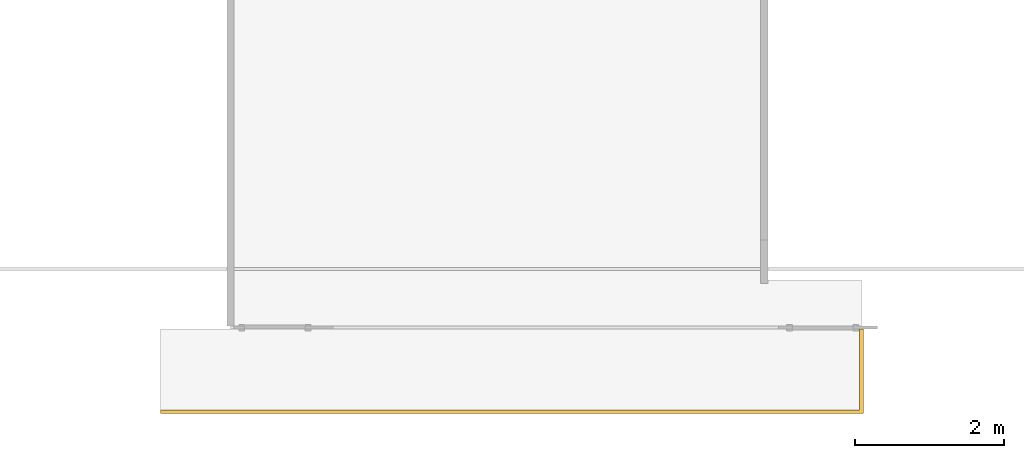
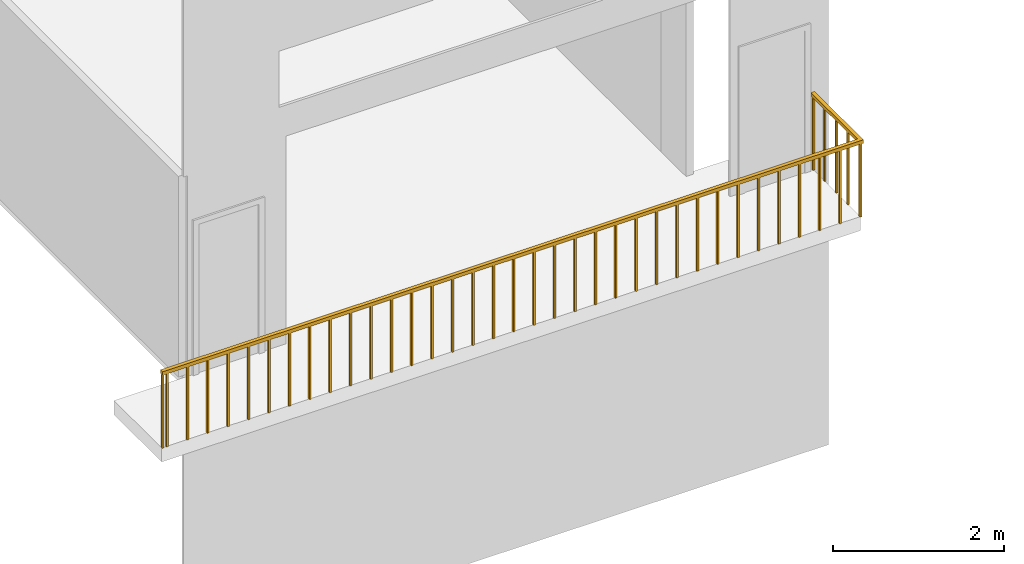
# One storey, part 12 of 14: 1 railing.
"""IFC2X3 building model written with IfcOpenShell, lengths in millimetres."""

from ifc_helpers import new_model, entity, si_unit, converted_unit, derived_unit, direction, frame, origin, place, context, subcontext, project, spatial, faceted_brep, element, save


model = new_model("IFC2X3")

# Units and contexts
model_context = context("Model", 3, precision=0.01, world=origin(), true_north=direction((4.05803320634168e-15, -1.0)))
body_context = subcontext(model_context, "Body", "Model", "MODEL_VIEW")
ifc_project = project(units=[si_unit("LENGTHUNIT", "METRE", prefix="MILLI"), si_unit("AREAUNIT", "SQUARE_METRE"), si_unit("VOLUMEUNIT", "CUBIC_METRE"), converted_unit("PLANEANGLEUNIT", "DEGREE", entity("IfcRatioMeasure", 0.0174532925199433), si_unit("PLANEANGLEUNIT", "RADIAN"), dimensions=[0, 0, 0, 0, 0, 0, 0]), si_unit("MASSUNIT", "GRAM", prefix="KILO"), derived_unit("MASSDENSITYUNIT", [(si_unit("MASSUNIT", "GRAM", prefix="KILO"), 1), (si_unit("LENGTHUNIT", "METRE"), -3)]), si_unit("TIMEUNIT", "SECOND"), si_unit("FREQUENCYUNIT", "HERTZ"), si_unit("THERMODYNAMICTEMPERATUREUNIT", "DEGREE_CELSIUS"), derived_unit("THERMALTRANSMITTANCEUNIT", [(si_unit("MASSUNIT", "GRAM", prefix="KILO"), 1), (si_unit("THERMODYNAMICTEMPERATUREUNIT", "KELVIN"), -1), (si_unit("TIMEUNIT", "SECOND"), -3)]), derived_unit("VOLUMETRICFLOWRATEUNIT", [(si_unit("LENGTHUNIT", "METRE"), 3), (si_unit("TIMEUNIT", "SECOND"), -1)]), si_unit("ELECTRICCURRENTUNIT", "AMPERE"), si_unit("ELECTRICVOLTAGEUNIT", "VOLT"), si_unit("POWERUNIT", "WATT"), si_unit("FORCEUNIT", "NEWTON", prefix="KILO"), si_unit("ILLUMINANCEUNIT", "LUX"), si_unit("LUMINOUSFLUXUNIT", "LUMEN"), si_unit("LUMINOUSINTENSITYUNIT", "CANDELA"), derived_unit("USERDEFINED", [(si_unit("MASSUNIT", "GRAM", prefix="KILO"), -1), (si_unit("LENGTHUNIT", "METRE"), -2), (si_unit("TIMEUNIT", "SECOND"), 3), (si_unit("LUMINOUSFLUXUNIT", "LUMEN"), 1)]), derived_unit("LINEARVELOCITYUNIT", [(si_unit("LENGTHUNIT", "METRE"), 1), (si_unit("TIMEUNIT", "SECOND"), -1)]), si_unit("PRESSUREUNIT", "PASCAL"), derived_unit("USERDEFINED", [(si_unit("LENGTHUNIT", "METRE"), -2), (si_unit("MASSUNIT", "GRAM", prefix="KILO"), 1), (si_unit("TIMEUNIT", "SECOND"), -2)])], contexts=[model_context])

# Site, building, storey
site_placement = place(None, frame((927466.849349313, 583801.882853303, 0.0), z_axis=(0.0, 0.0, 1.0), x_axis=(-1.0, 0.0, 0.0)))
site = spatial("IfcSite", under=ifc_project, at=site_placement, Name="Surface", CompositionType="ELEMENT")
building_placement = place(site_placement, origin())
building = spatial("IfcBuilding", under=site, at=building_placement, CompositionType="ELEMENT")
storey_placement = place(building_placement, frame((0.0, 0.0, 48170.0)))
storey = spatial("IfcBuildingStorey", under=building, at=storey_placement, Name="First floor", CompositionType="ELEMENT", Elevation=48170.0)

# Railing
railing_placement = place(storey_placement, frame((-118423.690247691, 37066.2777512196, 0.0)))
element("IfcRailing", 1, at=railing_placement, inside=storey, Name="Railing:1100mm", ObjectType="Railing:1100mm", PredefinedType="NOTDEFINED", context=body_context, shape_type="Brep", body=[
    faceted_brep([(9362.49999999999, 1124.50000000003, 1050.0), (9362.49999999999, 1124.50000000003, 0.0), (9362.49999999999, 1099.50000000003, 0.0), (9362.49999999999, 1099.50000000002, 1050.0), (9387.49999999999, 1099.50000000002, 0.0), (9387.50000000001, 1099.50000000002, 1050.0), (9387.50000000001, 1124.50000000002, 0.0), (9387.50000000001, 1124.50000000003, 1050.0)], [[[0, 1, 2, 3]], [[3, 2, 4, 5]], [[5, 4, 6, 7]], [[1, 0, 7, 6]], [[0, 3, 5, 7]], [[2, 1, 6, 4]]]),
    faceted_brep([(9087.49999999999, 1124.50000000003, 1050.0), (9087.49999999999, 1124.50000000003, 0.0), (9087.49999999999, 1099.50000000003, 0.0), (9087.49999999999, 1099.50000000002, 1050.0), (9112.49999999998, 1099.50000000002, 0.0), (9112.5, 1099.50000000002, 1050.0), (9112.5, 1124.50000000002, 0.0), (9112.5, 1124.50000000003, 1050.0)], [[[0, 1, 2, 3]], [[3, 2, 4, 5]], [[5, 4, 6, 7]], [[1, 0, 7, 6]], [[0, 3, 5, 7]], [[2, 1, 6, 4]]]),
    faceted_brep([(8812.49999999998, 1124.50000000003, 1050.0), (8812.49999999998, 1124.50000000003, 0.0), (8812.49999999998, 1099.50000000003, 0.0), (8812.49999999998, 1099.50000000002, 1050.0), (8837.49999999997, 1099.50000000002, 0.0), (8837.49999999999, 1099.50000000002, 1050.0), (8837.49999999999, 1124.50000000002, 0.0), (8837.49999999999, 1124.50000000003, 1050.0)], [[[0, 1, 2, 3]], [[3, 2, 4, 5]], [[5, 4, 6, 7]], [[1, 0, 7, 6]], [[0, 3, 5, 7]], [[2, 1, 6, 4]]]),
    faceted_brep([(8537.49999999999, 1124.50000000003, 1050.0), (8537.49999999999, 1124.50000000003, 0.0), (8537.49999999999, 1099.50000000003, 0.0), (8537.49999999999, 1099.50000000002, 1050.0), (8562.49999999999, 1099.50000000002, 0.0), (8562.5, 1099.50000000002, 1050.0), (8562.5, 1124.50000000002, 0.0), (8562.5, 1124.50000000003, 1050.0)], [[[0, 1, 2, 3]], [[3, 2, 4, 5]], [[5, 4, 6, 7]], [[1, 0, 7, 6]], [[0, 3, 5, 7]], [[2, 1, 6, 4]]]),
    faceted_brep([(8262.49999999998, 1124.50000000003, 1050.0), (8262.49999999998, 1124.50000000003, 0.0), (8262.49999999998, 1099.50000000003, 0.0), (8262.49999999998, 1099.50000000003, 1050.0), (8287.49999999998, 1099.50000000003, 0.0), (8287.5, 1099.50000000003, 1050.0), (8287.5, 1124.50000000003, 0.0), (8287.5, 1124.50000000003, 1050.0)], [[[0, 1, 2, 3]], [[3, 2, 4, 5]], [[5, 4, 6, 7]], [[1, 0, 7, 6]], [[0, 3, 5, 7]], [[2, 1, 6, 4]]]),
    faceted_brep([(7987.49999999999, 1124.50000000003, 1050.0), (7987.49999999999, 1124.50000000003, 0.0), (7987.49999999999, 1099.50000000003, 0.0), (7987.49999999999, 1099.50000000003, 1050.0), (8012.49999999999, 1099.50000000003, 0.0), (8012.50000000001, 1099.50000000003, 1050.0), (8012.50000000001, 1124.50000000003, 0.0), (8012.50000000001, 1124.50000000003, 1050.0)], [[[0, 1, 2, 3]], [[3, 2, 4, 5]], [[5, 4, 6, 7]], [[1, 0, 7, 6]], [[0, 3, 5, 7]], [[2, 1, 6, 4]]]),
    faceted_brep([(7712.49999999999, 1124.50000000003, 1050.0), (7712.49999999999, 1124.50000000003, 0.0), (7712.49999999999, 1099.50000000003, 0.0), (7712.49999999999, 1099.50000000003, 1050.0), (7737.49999999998, 1099.50000000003, 0.0), (7737.5, 1099.50000000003, 1050.0), (7737.5, 1124.50000000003, 0.0), (7737.5, 1124.50000000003, 1050.0)], [[[0, 1, 2, 3]], [[3, 2, 4, 5]], [[5, 4, 6, 7]], [[1, 0, 7, 6]], [[0, 3, 5, 7]], [[2, 1, 6, 4]]]),
    faceted_brep([(7437.5, 1124.50000000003, 1050.0), (7437.5, 1124.50000000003, 0.0), (7437.5, 1099.50000000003, 0.0), (7437.5, 1099.50000000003, 1050.0), (7462.49999999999, 1099.50000000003, 0.0), (7462.50000000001, 1099.50000000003, 1050.0), (7462.50000000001, 1124.50000000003, 0.0), (7462.50000000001, 1124.50000000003, 1050.0)], [[[0, 1, 2, 3]], [[3, 2, 4, 5]], [[5, 4, 6, 7]], [[1, 0, 7, 6]], [[0, 3, 5, 7]], [[2, 1, 6, 4]]]),
    faceted_brep([(7162.49999999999, 1124.50000000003, 1050.0), (7162.49999999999, 1124.50000000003, 0.0), (7162.49999999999, 1099.50000000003, 0.0), (7162.49999999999, 1099.50000000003, 1050.0), (7187.49999999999, 1099.50000000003, 0.0), (7187.5, 1099.50000000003, 1050.0), (7187.5, 1124.50000000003, 0.0), (7187.5, 1124.50000000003, 1050.0)], [[[0, 1, 2, 3]], [[3, 2, 4, 5]], [[5, 4, 6, 7]], [[1, 0, 7, 6]], [[0, 3, 5, 7]], [[2, 1, 6, 4]]]),
    faceted_brep([(6887.49999999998, 1124.50000000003, 1050.0), (6887.49999999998, 1124.50000000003, 0.0), (6887.49999999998, 1099.50000000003, 0.0), (6887.49999999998, 1099.50000000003, 1050.0), (6912.49999999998, 1099.50000000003, 0.0), (6912.5, 1099.50000000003, 1050.0), (6912.5, 1124.50000000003, 0.0), (6912.5, 1124.50000000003, 1050.0)], [[[0, 1, 2, 3]], [[3, 2, 4, 5]], [[5, 4, 6, 7]], [[1, 0, 7, 6]], [[0, 3, 5, 7]], [[2, 1, 6, 4]]]),
    faceted_brep([(6612.5, 1124.50000000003, 1050.0), (6612.5, 1124.50000000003, 0.0), (6612.5, 1099.50000000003, 0.0), (6612.5, 1099.50000000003, 1050.0), (6637.49999999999, 1099.50000000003, 0.0), (6637.50000000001, 1099.50000000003, 1050.0), (6637.50000000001, 1124.50000000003, 0.0), (6637.50000000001, 1124.50000000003, 1050.0)], [[[0, 1, 2, 3]], [[3, 2, 4, 5]], [[5, 4, 6, 7]], [[1, 0, 7, 6]], [[0, 3, 5, 7]], [[2, 1, 6, 4]]]),
    faceted_brep([(6337.49999999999, 1124.50000000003, 1050.0), (6337.49999999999, 1124.50000000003, 0.0), (6337.49999999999, 1099.50000000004, 0.0), (6337.49999999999, 1099.50000000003, 1050.0), (6362.49999999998, 1099.50000000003, 0.0), (6362.5, 1099.50000000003, 1050.0), (6362.5, 1124.50000000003, 0.0), (6362.5, 1124.50000000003, 1050.0)], [[[0, 1, 2, 3]], [[3, 2, 4, 5]], [[5, 4, 6, 7]], [[1, 0, 7, 6]], [[0, 3, 5, 7]], [[2, 1, 6, 4]]]),
    faceted_brep([(6062.49999999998, 1124.50000000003, 1050.0), (6062.49999999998, 1124.50000000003, 0.0), (6062.49999999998, 1099.50000000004, 0.0), (6062.49999999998, 1099.50000000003, 1050.0), (6087.49999999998, 1099.50000000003, 0.0), (6087.49999999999, 1099.50000000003, 1050.0), (6087.49999999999, 1124.50000000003, 0.0), (6087.49999999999, 1124.50000000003, 1050.0)], [[[0, 1, 2, 3]], [[3, 2, 4, 5]], [[5, 4, 6, 7]], [[1, 0, 7, 6]], [[0, 3, 5, 7]], [[2, 1, 6, 4]]]),
    faceted_brep([(5787.49999999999, 1124.50000000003, 1050.0), (5787.49999999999, 1124.50000000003, 0.0), (5787.49999999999, 1099.50000000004, 0.0), (5787.49999999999, 1099.50000000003, 1050.0), (5812.49999999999, 1099.50000000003, 0.0), (5812.5, 1099.50000000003, 1050.0), (5812.5, 1124.50000000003, 0.0), (5812.5, 1124.50000000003, 1050.0)], [[[0, 1, 2, 3]], [[3, 2, 4, 5]], [[5, 4, 6, 7]], [[1, 0, 7, 6]], [[0, 3, 5, 7]], [[2, 1, 6, 4]]]),
    faceted_brep([(5512.49999999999, 1124.50000000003, 1050.0), (5512.49999999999, 1124.50000000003, 0.0), (5512.49999999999, 1099.50000000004, 0.0), (5512.49999999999, 1099.50000000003, 1050.0), (5537.49999999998, 1099.50000000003, 0.0), (5537.5, 1099.50000000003, 1050.0), (5537.5, 1124.50000000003, 0.0), (5537.5, 1124.50000000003, 1050.0)], [[[0, 1, 2, 3]], [[3, 2, 4, 5]], [[5, 4, 6, 7]], [[1, 0, 7, 6]], [[0, 3, 5, 7]], [[2, 1, 6, 4]]]),
    faceted_brep([(5237.5, 1124.50000000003, 1050.0), (5237.5, 1124.50000000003, 0.0), (5237.5, 1099.50000000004, 0.0), (5237.5, 1099.50000000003, 1050.0), (5262.49999999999, 1099.50000000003, 0.0), (5262.50000000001, 1099.50000000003, 1050.0), (5262.50000000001, 1124.50000000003, 0.0), (5262.50000000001, 1124.50000000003, 1050.0)], [[[0, 1, 2, 3]], [[3, 2, 4, 5]], [[5, 4, 6, 7]], [[1, 0, 7, 6]], [[0, 3, 5, 7]], [[2, 1, 6, 4]]]),
    faceted_brep([(4962.49999999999, 1124.50000000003, 1050.0), (4962.49999999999, 1124.50000000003, 0.0), (4962.49999999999, 1099.50000000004, 0.0), (4962.49999999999, 1099.50000000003, 1050.0), (4987.49999999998, 1099.50000000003, 0.0), (4987.5, 1099.50000000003, 1050.0), (4987.5, 1124.50000000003, 0.0), (4987.5, 1124.50000000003, 1050.0)], [[[0, 1, 2, 3]], [[3, 2, 4, 5]], [[5, 4, 6, 7]], [[1, 0, 7, 6]], [[0, 3, 5, 7]], [[2, 1, 6, 4]]]),
    faceted_brep([(4687.49999999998, 1124.50000000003, 1050.0), (4687.49999999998, 1124.50000000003, 0.0), (4687.49999999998, 1099.50000000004, 0.0), (4687.49999999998, 1099.50000000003, 1050.0), (4712.49999999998, 1099.50000000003, 0.0), (4712.49999999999, 1099.50000000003, 1050.0), (4712.49999999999, 1124.50000000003, 0.0), (4712.49999999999, 1124.50000000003, 1050.0)], [[[0, 1, 2, 3]], [[3, 2, 4, 5]], [[5, 4, 6, 7]], [[1, 0, 7, 6]], [[0, 3, 5, 7]], [[2, 1, 6, 4]]]),
    faceted_brep([(4412.49999999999, 1124.50000000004, 1050.0), (4412.49999999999, 1124.50000000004, 0.0), (4412.49999999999, 1099.50000000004, 0.0), (4412.49999999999, 1099.50000000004, 1050.0), (4437.49999999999, 1099.50000000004, 0.0), (4437.5, 1099.50000000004, 1050.0), (4437.5, 1124.50000000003, 0.0), (4437.5, 1124.50000000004, 1050.0)], [[[0, 1, 2, 3]], [[3, 2, 4, 5]], [[5, 4, 6, 7]], [[1, 0, 7, 6]], [[0, 3, 5, 7]], [[2, 1, 6, 4]]]),
    faceted_brep([(4137.49999999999, 1124.50000000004, 1050.0), (4137.49999999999, 1124.50000000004, 0.0), (4137.49999999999, 1099.50000000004, 0.0), (4137.49999999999, 1099.50000000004, 1050.0), (4162.49999999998, 1099.50000000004, 0.0), (4162.5, 1099.50000000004, 1050.0), (4162.5, 1124.50000000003, 0.0), (4162.5, 1124.50000000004, 1050.0)], [[[0, 1, 2, 3]], [[3, 2, 4, 5]], [[5, 4, 6, 7]], [[1, 0, 7, 6]], [[0, 3, 5, 7]], [[2, 1, 6, 4]]]),
    faceted_brep([(3862.5, 1124.50000000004, 1050.0), (3862.5, 1124.50000000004, 0.0), (3862.5, 1099.50000000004, 0.0), (3862.5, 1099.50000000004, 1050.0), (3887.49999999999, 1099.50000000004, 0.0), (3887.50000000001, 1099.50000000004, 1050.0), (3887.50000000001, 1124.50000000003, 0.0), (3887.50000000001, 1124.50000000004, 1050.0)], [[[0, 1, 2, 3]], [[3, 2, 4, 5]], [[5, 4, 6, 7]], [[1, 0, 7, 6]], [[0, 3, 5, 7]], [[2, 1, 6, 4]]]),
    faceted_brep([(3587.49999999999, 1124.50000000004, 1050.0), (3587.49999999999, 1124.50000000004, 0.0), (3587.49999999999, 1099.50000000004, 0.0), (3587.49999999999, 1099.50000000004, 1050.0), (3612.49999999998, 1099.50000000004, 0.0), (3612.5, 1099.50000000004, 1050.0), (3612.5, 1124.50000000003, 0.0), (3612.5, 1124.50000000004, 1050.0)], [[[0, 1, 2, 3]], [[3, 2, 4, 5]], [[5, 4, 6, 7]], [[1, 0, 7, 6]], [[0, 3, 5, 7]], [[2, 1, 6, 4]]]),
    faceted_brep([(3312.49999999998, 1124.50000000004, 1050.0), (3312.49999999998, 1124.50000000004, 0.0), (3312.49999999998, 1099.50000000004, 0.0), (3312.49999999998, 1099.50000000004, 1050.0), (3337.49999999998, 1099.50000000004, 0.0), (3337.5, 1099.50000000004, 1050.0), (3337.5, 1124.50000000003, 0.0), (3337.5, 1124.50000000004, 1050.0)], [[[0, 1, 2, 3]], [[3, 2, 4, 5]], [[5, 4, 6, 7]], [[1, 0, 7, 6]], [[0, 3, 5, 7]], [[2, 1, 6, 4]]]),
    faceted_brep([(3037.49999999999, 1124.50000000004, 1050.0), (3037.49999999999, 1124.50000000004, 0.0), (3037.49999999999, 1099.50000000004, 0.0), (3037.49999999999, 1099.50000000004, 1050.0), (3062.49999999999, 1099.50000000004, 0.0), (3062.50000000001, 1099.50000000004, 1050.0), (3062.50000000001, 1124.50000000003, 0.0), (3062.50000000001, 1124.50000000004, 1050.0)], [[[0, 1, 2, 3]], [[3, 2, 4, 5]], [[5, 4, 6, 7]], [[1, 0, 7, 6]], [[0, 3, 5, 7]], [[2, 1, 6, 4]]]),
    faceted_brep([(2762.49999999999, 1124.50000000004, 1050.0), (2762.49999999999, 1124.50000000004, 0.0), (2762.49999999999, 1099.50000000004, 0.0), (2762.49999999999, 1099.50000000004, 1050.0), (2787.49999999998, 1099.50000000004, 0.0), (2787.5, 1099.50000000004, 1050.0), (2787.5, 1124.50000000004, 0.0), (2787.5, 1124.50000000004, 1050.0)], [[[0, 1, 2, 3]], [[3, 2, 4, 5]], [[5, 4, 6, 7]], [[1, 0, 7, 6]], [[0, 3, 5, 7]], [[2, 1, 6, 4]]]),
    faceted_brep([(2487.49999999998, 1124.50000000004, 1050.0), (2487.49999999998, 1124.50000000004, 0.0), (2487.49999999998, 1099.50000000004, 0.0), (2487.49999999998, 1099.50000000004, 1050.0), (2512.49999999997, 1099.50000000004, 0.0), (2512.49999999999, 1099.50000000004, 1050.0), (2512.49999999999, 1124.50000000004, 0.0), (2512.49999999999, 1124.50000000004, 1050.0)], [[[0, 1, 2, 3]], [[3, 2, 4, 5]], [[5, 4, 6, 7]], [[1, 0, 7, 6]], [[0, 3, 5, 7]], [[2, 1, 6, 4]]]),
    faceted_brep([(2212.49999999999, 1124.50000000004, 1050.0), (2212.49999999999, 1124.50000000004, 0.0), (2212.49999999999, 1099.50000000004, 0.0), (2212.49999999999, 1099.50000000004, 1050.0), (2237.49999999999, 1099.50000000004, 0.0), (2237.5, 1099.50000000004, 1050.0), (2237.5, 1124.50000000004, 0.0), (2237.5, 1124.50000000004, 1050.0)], [[[0, 1, 2, 3]], [[3, 2, 4, 5]], [[5, 4, 6, 7]], [[1, 0, 7, 6]], [[0, 3, 5, 7]], [[2, 1, 6, 4]]]),
    faceted_brep([(1937.49999999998, 1124.50000000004, 1050.0), (1937.49999999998, 1124.50000000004, 0.0), (1937.49999999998, 1099.50000000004, 0.0), (1937.49999999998, 1099.50000000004, 1050.0), (1962.49999999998, 1099.50000000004, 0.0), (1962.5, 1099.50000000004, 1050.0), (1962.5, 1124.50000000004, 0.0), (1962.5, 1124.50000000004, 1050.0)], [[[0, 1, 2, 3]], [[3, 2, 4, 5]], [[5, 4, 6, 7]], [[1, 0, 7, 6]], [[0, 3, 5, 7]], [[2, 1, 6, 4]]]),
    faceted_brep([(1662.49999999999, 1124.50000000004, 1050.0), (1662.49999999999, 1124.50000000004, 0.0), (1662.49999999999, 1099.50000000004, 0.0), (1662.49999999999, 1099.50000000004, 1050.0), (1687.49999999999, 1099.50000000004, 0.0), (1687.50000000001, 1099.50000000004, 1050.0), (1687.50000000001, 1124.50000000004, 0.0), (1687.50000000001, 1124.50000000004, 1050.0)], [[[0, 1, 2, 3]], [[3, 2, 4, 5]], [[5, 4, 6, 7]], [[1, 0, 7, 6]], [[0, 3, 5, 7]], [[2, 1, 6, 4]]]),
    faceted_brep([(1387.49999999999, 1124.50000000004, 1050.0), (1387.49999999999, 1124.50000000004, 0.0), (1387.49999999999, 1099.50000000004, 0.0), (1387.49999999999, 1099.50000000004, 1050.0), (1412.49999999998, 1099.50000000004, 0.0), (1412.5, 1099.50000000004, 1050.0), (1412.5, 1124.50000000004, 0.0), (1412.5, 1124.50000000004, 1050.0)], [[[0, 1, 2, 3]], [[3, 2, 4, 5]], [[5, 4, 6, 7]], [[1, 0, 7, 6]], [[0, 3, 5, 7]], [[2, 1, 6, 4]]]),
    faceted_brep([(1112.49999999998, 1124.50000000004, 1050.0), (1112.49999999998, 1124.50000000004, 0.0), (1112.49999999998, 1099.50000000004, 0.0), (1112.49999999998, 1099.50000000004, 1050.0), (1137.49999999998, 1099.50000000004, 0.0), (1137.49999999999, 1099.50000000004, 1050.0), (1137.49999999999, 1124.50000000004, 0.0), (1137.49999999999, 1124.50000000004, 1050.0)], [[[0, 1, 2, 3]], [[3, 2, 4, 5]], [[5, 4, 6, 7]], [[1, 0, 7, 6]], [[0, 3, 5, 7]], [[2, 1, 6, 4]]]),
    faceted_brep([(837.499999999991, 1124.50000000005, 1050.0), (837.499999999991, 1124.50000000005, 0.0), (837.499999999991, 1099.50000000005, 0.0), (837.499999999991, 1099.50000000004, 1050.0), (862.499999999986, 1099.50000000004, 0.0), (862.500000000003, 1099.50000000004, 1050.0), (862.500000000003, 1124.50000000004, 0.0), (862.500000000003, 1124.50000000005, 1050.0)], [[[0, 1, 2, 3]], [[3, 2, 4, 5]], [[5, 4, 6, 7]], [[1, 0, 7, 6]], [[0, 3, 5, 7]], [[2, 1, 6, 4]]]),
    faceted_brep([(562.499999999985, 1124.50000000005, 1050.0), (562.499999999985, 1124.50000000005, 0.0), (562.499999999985, 1099.50000000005, 0.0), (562.499999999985, 1099.50000000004, 1050.0), (587.499999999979, 1099.50000000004, 0.0), (587.499999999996, 1099.50000000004, 1050.0), (587.499999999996, 1124.50000000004, 0.0), (587.499999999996, 1124.50000000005, 1050.0)], [[[0, 1, 2, 3]], [[3, 2, 4, 5]], [[5, 4, 6, 7]], [[1, 0, 7, 6]], [[0, 3, 5, 7]], [[2, 1, 6, 4]]]),
    faceted_brep([(287.499999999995, 1124.50000000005, 1050.0), (287.499999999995, 1124.50000000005, 0.0), (287.499999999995, 1099.50000000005, 0.0), (287.499999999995, 1099.50000000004, 1050.0), (312.49999999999, 1099.50000000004, 0.0), (312.500000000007, 1099.50000000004, 1050.0), (312.500000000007, 1124.50000000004, 0.0), (312.500000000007, 1124.50000000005, 1050.0)], [[[0, 1, 2, 3]], [[3, 2, 4, 5]], [[5, 4, 6, 7]], [[1, 0, 7, 6]], [[0, 3, 5, 7]], [[2, 1, 6, 4]]]),
    faceted_brep([(12.4999999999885, 1087.5, 1050.0), (12.4999999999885, 1087.5, 0.0), (37.4999999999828, 1087.5, 0.0), (37.5000000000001, 1087.5, 1050.0), (37.5000000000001, 1112.5, 0.0), (37.5000000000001, 1112.5, 1050.0), (12.5000000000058, 1112.5, 0.0), (12.4999999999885, 1112.5, 1050.0)], [[[0, 1, 2, 3]], [[3, 2, 4, 5]], [[5, 4, 6, 7]], [[1, 0, 7, 6]], [[0, 3, 5, 7]], [[2, 1, 6, 4]]]),
    faceted_brep([(12.4999999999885, 812.499999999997, 1050.0), (12.4999999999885, 812.499999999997, 0.0), (37.4999999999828, 812.499999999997, 0.0), (37.5000000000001, 812.499999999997, 1050.0), (37.5000000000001, 837.499999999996, 0.0), (37.5000000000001, 837.5, 1050.0), (12.5000000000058, 837.5, 0.0), (12.4999999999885, 837.5, 1050.0)], [[[0, 1, 2, 3]], [[3, 2, 4, 5]], [[5, 4, 6, 7]], [[1, 0, 7, 6]], [[0, 3, 5, 7]], [[2, 1, 6, 4]]]),
    faceted_brep([(12.4999999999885, 537.499999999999, 1050.0), (12.4999999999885, 537.499999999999, 0.0), (37.4999999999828, 537.499999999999, 0.0), (37.5000000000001, 537.499999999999, 1050.0), (37.5000000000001, 562.499999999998, 0.0), (37.5000000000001, 562.500000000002, 1050.0), (12.5000000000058, 562.500000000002, 0.0), (12.4999999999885, 562.500000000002, 1050.0)], [[[0, 1, 2, 3]], [[3, 2, 4, 5]], [[5, 4, 6, 7]], [[1, 0, 7, 6]], [[0, 3, 5, 7]], [[2, 1, 6, 4]]]),
    faceted_brep([(12.4999999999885, 262.499999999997, 1050.0), (12.4999999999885, 262.499999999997, 0.0), (37.4999999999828, 262.499999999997, 0.0), (37.5000000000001, 262.499999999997, 1050.0), (37.5000000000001, 287.499999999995, 0.0), (37.5000000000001, 287.5, 1050.0), (12.5000000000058, 287.5, 0.0), (12.4999999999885, 287.5, 1050.0)], [[[0, 1, 2, 3]], [[3, 2, 4, 5]], [[5, 4, 6, 7]], [[1, 0, 7, 6]], [[0, 3, 5, 7]], [[2, 1, 6, 4]]]),
    faceted_brep([(12.4999999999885, 1099.50000000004, 1050.0), (12.4999999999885, 1099.50000000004, 0.0), (37.4999999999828, 1099.50000000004, 0.0), (37.5000000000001, 1099.50000000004, 1050.0), (37.5000000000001, 1124.50000000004, 0.0), (37.5000000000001, 1124.50000000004, 1050.0), (12.5000000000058, 1124.50000000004, 0.0), (12.4999999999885, 1124.50000000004, 1050.0)], [[[0, 1, 2, 3]], [[3, 2, 4, 5]], [[5, 4, 6, 7]], [[1, 0, 7, 6]], [[0, 3, 5, 7]], [[2, 1, 6, 4]]]),
    faceted_brep([(9420.81830290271, 1124.50000000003, 1050.0), (9420.81830290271, 1124.50000000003, 0.0), (9420.81830290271, 1099.50000000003, 0.0), (9420.81830290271, 1099.50000000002, 1050.0), (9445.8183029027, 1099.50000000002, 0.0), (9445.81830290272, 1099.50000000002, 1050.0), (9445.81830290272, 1124.50000000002, 0.0), (9445.81830290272, 1124.50000000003, 1050.0)], [[[0, 1, 2, 3]], [[3, 2, 4, 5]], [[5, 4, 6, 7]], [[1, 0, 7, 6]], [[0, 3, 5, 7]], [[2, 1, 6, 4]]]),
    faceted_brep([(12.4999999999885, 0.0, 1050.0), (12.4999999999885, 0.0, 0.0), (37.4999999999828, 0.0, 0.0), (37.5000000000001, 0.0, 1050.0), (37.5000000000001, 25.0, 0.0), (37.5000000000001, 25.0, 1050.0), (12.5000000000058, 25.0, 0.0), (12.4999999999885, 25.0, 1050.0)], [[[0, 1, 2, 3]], [[3, 2, 4, 5]], [[5, 4, 6, 7]], [[1, 0, 7, 6]], [[0, 3, 5, 7]], [[2, 1, 6, 4]]]),
    faceted_brep([(0.0, 0.0, 1100.0), (0.0, 0.0, 1050.0), (50.0, 0.0, 1050.0), (50.0, 0.0, 1100.0), (0.0, 1137.0, 1100.0), (0.0, 1137.0, 1050.0), (50.0, 1087.0, 1050.0), (50.0, 1087.0, 1100.0), (9445.81830290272, 1137.0, 1100.0), (9445.81830290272, 1087.0, 1100.0), (9445.81830290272, 1087.0, 1050.0), (9445.81830290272, 1137.0, 1050.0)], [[[0, 1, 2, 3]], [[1, 0, 4, 5]], [[2, 1, 5, 6]], [[3, 2, 6, 7]], [[0, 3, 7, 4]], [[8, 9, 10, 11]], [[5, 4, 8, 11]], [[6, 5, 11, 10]], [[7, 6, 10, 9]], [[4, 7, 9, 8]]]),
])

save(model, "model.ifc")
